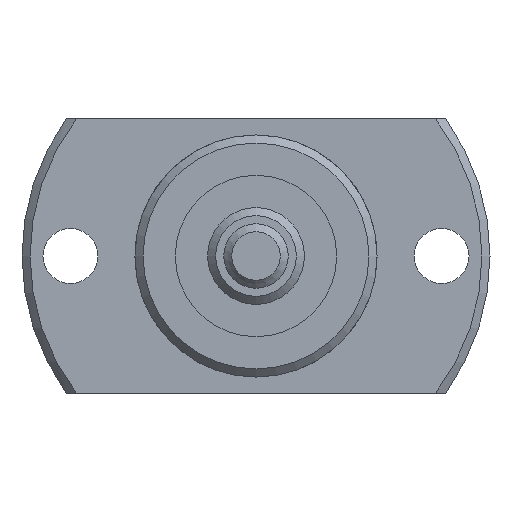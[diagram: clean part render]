
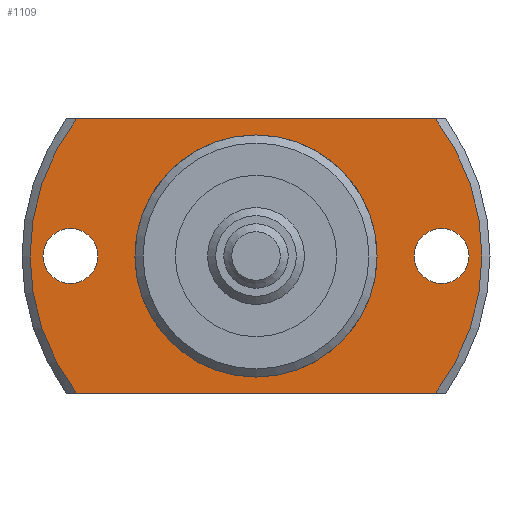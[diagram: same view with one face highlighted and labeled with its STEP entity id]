
A CAD part, left-side view. The second image highlights one B-rep face of the part: STEP entity #1109.
In plain terms, the highlighted planar face has unit normal (-1, 0, 0).
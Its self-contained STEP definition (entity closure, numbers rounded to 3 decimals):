
#109=LINE('',#1859,#167);
#110=LINE('',#1863,#168);
#167=VECTOR('',#1490,1000.);
#168=VECTOR('',#1493,1000.);
#299=ORIENTED_EDGE('',*,*,#559,.T.);
#300=ORIENTED_EDGE('',*,*,#560,.T.);
#301=ORIENTED_EDGE('',*,*,#548,.F.);
#302=ORIENTED_EDGE('',*,*,#561,.T.);
#303=ORIENTED_EDGE('',*,*,#562,.F.);
#304=ORIENTED_EDGE('',*,*,#563,.T.);
#305=ORIENTED_EDGE('',*,*,#542,.T.);
#542=EDGE_CURVE('',#683,#683,#776,.T.);
#548=EDGE_CURVE('',#688,#689,#779,.T.);
#559=EDGE_CURVE('',#698,#698,#785,.T.);
#560=EDGE_CURVE('',#699,#699,#786,.T.);
#561=EDGE_CURVE('',#688,#700,#109,.T.);
#562=EDGE_CURVE('',#701,#700,#787,.T.);
#563=EDGE_CURVE('',#701,#689,#110,.T.);
#683=VERTEX_POINT('',#1806);
#688=VERTEX_POINT('',#1820);
#689=VERTEX_POINT('',#1822);
#698=VERTEX_POINT('',#1856);
#699=VERTEX_POINT('',#1858);
#700=VERTEX_POINT('',#1860);
#701=VERTEX_POINT('',#1862);
#776=CIRCLE('',#1232,7.3);
#779=CIRCLE('',#1236,14.);
#785=CIRCLE('',#1247,1.7);
#786=CIRCLE('',#1248,1.7);
#787=CIRCLE('',#1249,14.);
#869=EDGE_LOOP('',(#299));
#870=EDGE_LOOP('',(#300));
#871=EDGE_LOOP('',(#301,#302,#303,#304));
#872=EDGE_LOOP('',(#305));
#981=FACE_BOUND('',#869,.T.);
#982=FACE_BOUND('',#870,.T.);
#983=FACE_BOUND('',#871,.T.);
#984=FACE_BOUND('',#872,.T.);
#1055=PLANE('',#1246);
#1109=ADVANCED_FACE('',(#981,#982,#983,#984),#1055,.F.);
#1232=AXIS2_PLACEMENT_3D('',#1805,#1452,#1453);
#1236=AXIS2_PLACEMENT_3D('',#1821,#1462,#1463);
#1246=AXIS2_PLACEMENT_3D('',#1854,#1484,#1485);
#1247=AXIS2_PLACEMENT_3D('',#1855,#1486,#1487);
#1248=AXIS2_PLACEMENT_3D('',#1857,#1488,#1489);
#1249=AXIS2_PLACEMENT_3D('',#1861,#1491,#1492);
#1452=DIRECTION('',(1.,0.,0.));
#1453=DIRECTION('',(0.,0.,-1.));
#1462=DIRECTION('',(1.,0.,0.));
#1463=DIRECTION('',(0.,0.,-1.));
#1484=DIRECTION('',(1.,0.,0.));
#1485=DIRECTION('',(0.,0.,-1.));
#1486=DIRECTION('',(1.,0.,0.));
#1487=DIRECTION('',(0.,0.,-1.));
#1488=DIRECTION('',(1.,0.,0.));
#1489=DIRECTION('',(0.,0.,-1.));
#1490=DIRECTION('',(0.,-1.,0.));
#1491=DIRECTION('',(1.,0.,0.));
#1492=DIRECTION('',(0.,0.,-1.));
#1493=DIRECTION('',(0.,1.,0.));
#1805=CARTESIAN_POINT('',(13.,0.,0.));
#1806=CARTESIAN_POINT('',(13.,0.,-7.3));
#1820=CARTESIAN_POINT('',(13.,11.124,-8.5));
#1821=CARTESIAN_POINT('',(13.,0.,0.));
#1822=CARTESIAN_POINT('',(13.,11.124,8.5));
#1854=CARTESIAN_POINT('',(13.,7.3,0.));
#1855=CARTESIAN_POINT('',(13.,-11.5,0.));
#1856=CARTESIAN_POINT('',(13.,-11.5,-1.7));
#1857=CARTESIAN_POINT('',(13.,11.5,0.));
#1858=CARTESIAN_POINT('',(13.,11.5,-1.7));
#1859=CARTESIAN_POINT('',(13.,7.3,-8.5));
#1860=CARTESIAN_POINT('',(13.,-11.124,-8.5));
#1861=CARTESIAN_POINT('',(13.,0.,0.));
#1862=CARTESIAN_POINT('',(13.,-11.124,8.5));
#1863=CARTESIAN_POINT('',(13.,7.3,8.5));
